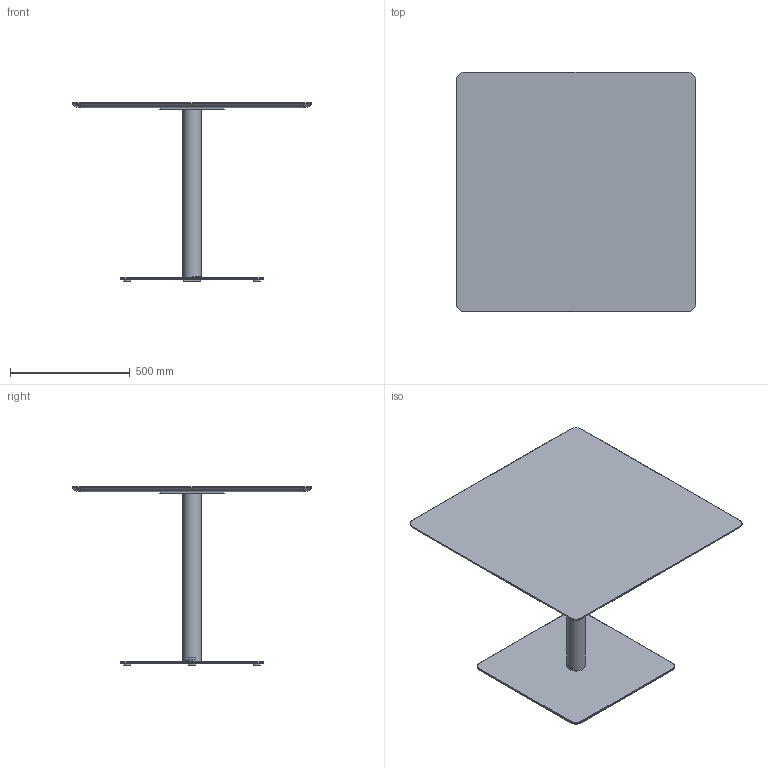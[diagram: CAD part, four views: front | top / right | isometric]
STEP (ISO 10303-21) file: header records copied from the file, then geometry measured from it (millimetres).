
FILE_DESCRIPTION( ('This file contains a STEP AP42 implementation' ,'as created by ZW3D STEP Interface translator.') ,'2;1' );
FILE_NAME( 'Henri - B_Carré - F3 - M3 - 1000 x 1000 x 750.stp' ,'24 912.1712 7', (''), ('ZWCAD Software Co.'), 'Version 1.0', 'ZW3D to STEP translator', '' );
FILE_SCHEMA(('AUTOMOTIVE_DESIGN { 1 0 10303 214 1 1 1 1 }'));
Length unit declared in the file: millimetre
Products named in the file (14): 0; PIED BISTROT PARAMETRIQUE_; COLONNE ACIER Ø76 V.02_; TUB-D076-02_; PLA-R76B-01_; CROIX ACIER 370 V.02_; CRX-X370-02_; SOCLE ACIER L 600x600 V.02_; SCL-R600-02_; PLA-R30A-01_; PLA-R30A-01; WUERTH 0276063020 Euro-screw 6.3x2 Verzinkt_; PLATEAU BISTROT PARAMETRIQUE_; insert_m6_13_
Assembly tree (22 placements, depth 3):
  0
  PIED BISTROT PARAMETRIQUE_
    COLONNE ACIER Ø76 V.02_
      TUB-D076-02_
      PLA-R76B-01_  x2
    CROIX ACIER 370 V.02_
      CRX-X370-02_
    SOCLE ACIER L 600x600 V.02_
      SCL-R600-02_
      PLA-R30A-01_
      PLA-R30A-01  x3
    WUERTH 0276063020 Euro-screw 6.3x2 Verzinkt_
    PLATEAU BISTROT PARAMETRIQUE_
      insert_m6_13_  x8
Bounding box: 1000 x 1000 x 744 mm (x, y, z)
Volume: 23183682.4 mm3; surface area: 3285130.8 mm2
Topology: 19 solids, 19 shells, 537 faces, 1310 edges, 822 vertices
Faces by surface type: plane 258, bspline 125, cylinder 102, cone 51, torus 1
Full cylindrical faces by diameter (mm): 4.88 x1, 6 x8, 6.3 x1, 8 x45, 12 x2, 14 x2, 30 x4, 72 x1, 76 x1
Entity records: 12352 total; most frequent: CARTESIAN_POINT 3446, ORIENTED_EDGE 1624, DIRECTION 1519, EDGE_CURVE 812, VERTEX_POINT 518, AXIS2_PLACEMENT_3D 507, VECTOR 505, LINE 505
